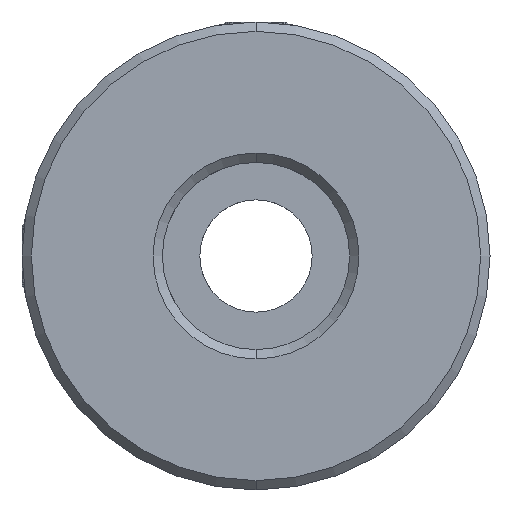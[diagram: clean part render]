
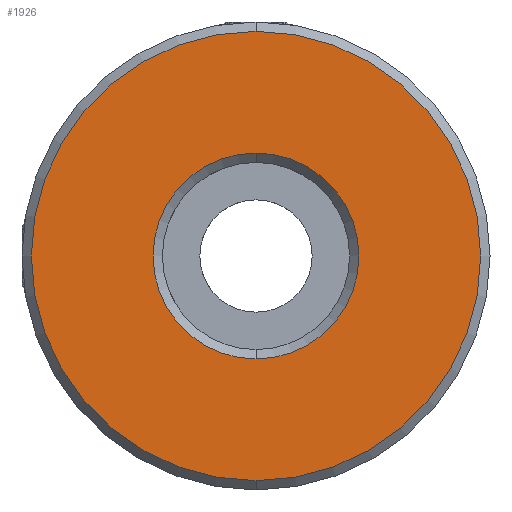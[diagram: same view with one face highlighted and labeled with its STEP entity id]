
A CAD part, front view. The second image highlights one B-rep face of the part: STEP entity #1926.
In plain terms, the highlighted planar face has unit normal (0, -1, 0).
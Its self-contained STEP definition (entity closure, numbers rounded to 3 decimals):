
#19 = DIRECTION ( 'NONE',  ( 0., 0., 1. ) ) ;
#167 = EDGE_CURVE ( 'NONE', #302, #2077, #2538, .T. ) ;
#193 = DIRECTION ( 'NONE',  ( 0., 1., 0. ) ) ;
#300 = DIRECTION ( 'NONE',  ( 0., 0., 1. ) ) ;
#302 = VERTEX_POINT ( 'NONE', #3007 ) ;
#484 = EDGE_CURVE ( 'NONE', #2409, #743, #913, .T. ) ;
#743 = VERTEX_POINT ( 'NONE', #770 ) ;
#770 = CARTESIAN_POINT ( 'NONE',  ( -10.188, -0.277, -5.454 ) ) ;
#792 = CIRCLE ( 'NONE', #1767, 12. ) ;
#821 = CARTESIAN_POINT ( 'NONE',  ( -10.188, -0.277, 0.046 ) ) ;
#823 = ORIENTED_EDGE ( 'NONE', *, *, #484, .T. ) ;
#866 = DIRECTION ( 'NONE',  ( 0., 1., 0. ) ) ;
#913 = CIRCLE ( 'NONE', #3154, 5.5 ) ;
#977 = AXIS2_PLACEMENT_3D ( 'NONE', #3470, #3111, #300 ) ;
#1012 = CARTESIAN_POINT ( 'NONE',  ( -10.188, -0.277, 12.046 ) ) ;
#1163 = DIRECTION ( 'NONE',  ( 0., -1., 0. ) ) ;
#1185 = DIRECTION ( 'NONE',  ( 0., 0., 1. ) ) ;
#1199 = DIRECTION ( 'NONE',  ( 0., 1., 0. ) ) ;
#1324 = EDGE_CURVE ( 'NONE', #2077, #302, #792, .T. ) ;
#1332 = DIRECTION ( 'NONE',  ( 0., 0., 1. ) ) ;
#1418 = FACE_OUTER_BOUND ( 'NONE', #2347, .T. ) ;
#1458 = ORIENTED_EDGE ( 'NONE', *, *, #167, .T. ) ;
#1743 = CARTESIAN_POINT ( 'NONE',  ( -10.188, -0.277, 0.046 ) ) ;
#1767 = AXIS2_PLACEMENT_3D ( 'NONE', #3196, #1163, #1185 ) ;
#1926 = ADVANCED_FACE ( 'NONE', ( #1418, #3731 ), #3490, .F. ) ;
#1951 = DIRECTION ( 'NONE',  ( 0., 0., 1. ) ) ;
#2069 = AXIS2_PLACEMENT_3D ( 'NONE', #1743, #1199, #19 ) ;
#2077 = VERTEX_POINT ( 'NONE', #1012 ) ;
#2347 = EDGE_LOOP ( 'NONE', ( #2767, #1458 ) ) ;
#2409 = VERTEX_POINT ( 'NONE', #3198 ) ;
#2538 = CIRCLE ( 'NONE', #977, 12. ) ;
#2560 = ORIENTED_EDGE ( 'NONE', *, *, #3361, .T. ) ;
#2627 = EDGE_LOOP ( 'NONE', ( #2560, #823 ) ) ;
#2662 = CIRCLE ( 'NONE', #2727, 5.5 ) ;
#2727 = AXIS2_PLACEMENT_3D ( 'NONE', #821, #866, #1951 ) ;
#2767 = ORIENTED_EDGE ( 'NONE', *, *, #1324, .T. ) ;
#2774 = CARTESIAN_POINT ( 'NONE',  ( -10.188, -0.277, 0.046 ) ) ;
#3007 = CARTESIAN_POINT ( 'NONE',  ( -10.188, -0.277, -11.954 ) ) ;
#3111 = DIRECTION ( 'NONE',  ( 0., -1., 0. ) ) ;
#3154 = AXIS2_PLACEMENT_3D ( 'NONE', #2774, #193, #1332 ) ;
#3196 = CARTESIAN_POINT ( 'NONE',  ( -10.188, -0.277, 0.046 ) ) ;
#3198 = CARTESIAN_POINT ( 'NONE',  ( -10.188, -0.277, 5.546 ) ) ;
#3361 = EDGE_CURVE ( 'NONE', #743, #2409, #2662, .T. ) ;
#3470 = CARTESIAN_POINT ( 'NONE',  ( -10.188, -0.277, 0.046 ) ) ;
#3490 = PLANE ( 'NONE',  #2069 ) ;
#3731 = FACE_BOUND ( 'NONE', #2627, .T. ) ;
